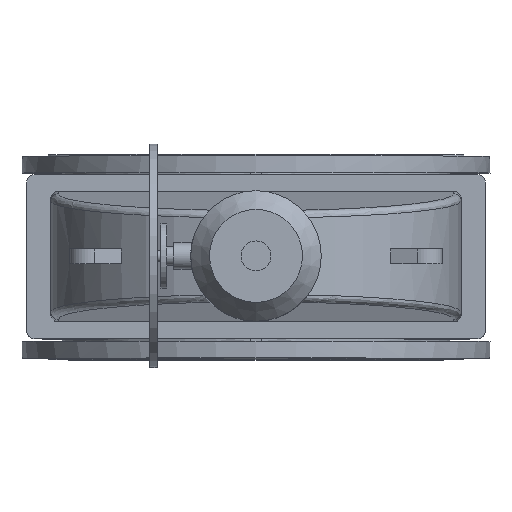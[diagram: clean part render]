
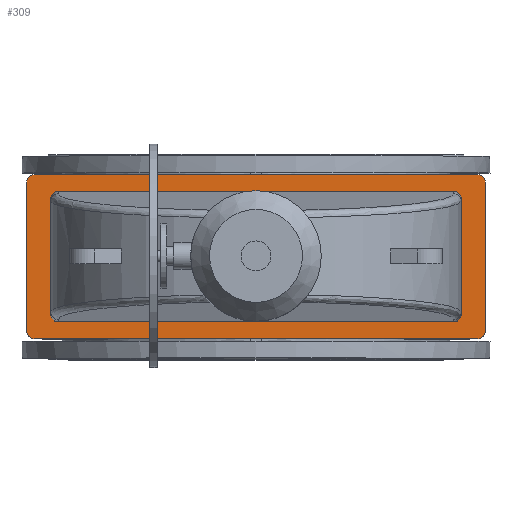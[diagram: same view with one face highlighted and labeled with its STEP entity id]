
A CAD part, top view. The second image highlights one B-rep face of the part: STEP entity #309.
In plain terms, the highlighted planar face has unit normal (0, 0, 1).
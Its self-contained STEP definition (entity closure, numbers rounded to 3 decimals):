
#309=ADVANCED_FACE('',(#3663,#3665),#3667,.T.);
#3663=FACE_BOUND('',#3664,.T.);
#3664=EDGE_LOOP('',(#8280,#8281,#8282,#8283,#8284,#8285,#8286,#8287));
#3665=FACE_BOUND('',#3666,.T.);
#3666=EDGE_LOOP('',(#8288,#8289,#8290,#8291,#8292,#8293,#8294,#8295));
#3667=PLANE('',#3668);
#3668=AXIS2_PLACEMENT_3D('',#3669,#3670,#3671);
#3669=CARTESIAN_POINT('',(0.,0.,1086.));
#3670=DIRECTION('',(0.,-0.,1.));
#3671=DIRECTION('',(0.,1.,0.));
#8280=ORIENTED_EDGE('',*,*,#9634,.F.);
#8281=ORIENTED_EDGE('',*,*,#9635,.T.);
#8282=ORIENTED_EDGE('',*,*,#9636,.F.);
#8283=ORIENTED_EDGE('',*,*,#9637,.T.);
#8284=ORIENTED_EDGE('',*,*,#9638,.F.);
#8285=ORIENTED_EDGE('',*,*,#9639,.T.);
#8286=ORIENTED_EDGE('',*,*,#9640,.F.);
#8287=ORIENTED_EDGE('',*,*,#9641,.T.);
#8288=ORIENTED_EDGE('',*,*,#9632,.F.);
#8289=ORIENTED_EDGE('',*,*,#9631,.F.);
#8290=ORIENTED_EDGE('',*,*,#9633,.F.);
#8291=ORIENTED_EDGE('',*,*,#9606,.F.);
#8292=ORIENTED_EDGE('',*,*,#9642,.F.);
#8293=ORIENTED_EDGE('',*,*,#9643,.F.);
#8294=ORIENTED_EDGE('',*,*,#9644,.F.);
#8295=ORIENTED_EDGE('',*,*,#9599,.F.);
#9599=EDGE_CURVE('',#10322,#10324,#10325,.T.);
#9606=EDGE_CURVE('',#10334,#10332,#10336,.T.);
#9631=EDGE_CURVE('',#10375,#10373,#10377,.T.);
#9632=EDGE_CURVE('',#10373,#10322,#10378,.F.);
#9633=EDGE_CURVE('',#10332,#10375,#10379,.T.);
#9634=EDGE_CURVE('',#10380,#10381,#10382,.F.);
#9635=EDGE_CURVE('',#10380,#10383,#10384,.T.);
#9636=EDGE_CURVE('',#10385,#10383,#10386,.F.);
#9637=EDGE_CURVE('',#10385,#10387,#10388,.T.);
#9638=EDGE_CURVE('',#10389,#10387,#10390,.F.);
#9639=EDGE_CURVE('',#10389,#10391,#10392,.T.);
#9640=EDGE_CURVE('',#10393,#10391,#10394,.F.);
#9641=EDGE_CURVE('',#10393,#10381,#10395,.T.);
#9642=EDGE_CURVE('',#10396,#10334,#10397,.F.);
#9643=EDGE_CURVE('',#10398,#10396,#10399,.T.);
#9644=EDGE_CURVE('',#10324,#10398,#10400,.T.);
#10322=VERTEX_POINT('',#11730);
#10324=VERTEX_POINT('',#11734);
#10325=LINE('',#11735,#11736);
#10332=VERTEX_POINT('',#11755);
#10334=VERTEX_POINT('',#11759);
#10336=LINE('',#11763,#11764);
#10373=VERTEX_POINT('',#11856);
#10375=VERTEX_POINT('',#11860);
#10377=LINE('',#11864,#11865);
#10378=(BOUNDED_CURVE()B_SPLINE_CURVE(3,
(#11867,#11868,#11869,#11870),
.UNSPECIFIED.,.F.,.F.)B_SPLINE_CURVE_WITH_KNOTS((4,4),
(0.,1.),
.UNSPECIFIED.)CURVE()GEOMETRIC_REPRESENTATION_ITEM()RATIONAL_B_SPLINE_CURVE((1.,
0.805,0.805,1.))REPRESENTATION_ITEM(''));
#10379=(BOUNDED_CURVE()B_SPLINE_CURVE(3,
(#11871,#11872,#11873,#11874),
.UNSPECIFIED.,.F.,.F.)B_SPLINE_CURVE_WITH_KNOTS((4,4),
(0.,1.),
.UNSPECIFIED.)CURVE()GEOMETRIC_REPRESENTATION_ITEM()RATIONAL_B_SPLINE_CURVE((1.,
0.805,0.805,1.))REPRESENTATION_ITEM(''));
#10380=VERTEX_POINT('',#11875);
#10381=VERTEX_POINT('',#11876);
#10382=CIRCLE('',#11877,20.);
#10383=VERTEX_POINT('',#11881);
#10384=LINE('',#11882,#11883);
#10385=VERTEX_POINT('',#11885);
#10386=CIRCLE('',#11886,20.);
#10387=VERTEX_POINT('',#11890);
#10388=LINE('',#11891,#11892);
#10389=VERTEX_POINT('',#11894);
#10390=CIRCLE('',#11895,20.);
#10391=VERTEX_POINT('',#11899);
#10392=LINE('',#11900,#11901);
#10393=VERTEX_POINT('',#11903);
#10394=CIRCLE('',#11904,20.);
#10395=LINE('',#11908,#11909);
#10396=VERTEX_POINT('',#11911);
#10397=(BOUNDED_CURVE()B_SPLINE_CURVE(3,
(#11912,#11913,#11914,#11915),
.UNSPECIFIED.,.F.,.F.)B_SPLINE_CURVE_WITH_KNOTS((4,4),
(0.,1.),
.UNSPECIFIED.)CURVE()GEOMETRIC_REPRESENTATION_ITEM()RATIONAL_B_SPLINE_CURVE((1.,
0.805,0.805,1.))REPRESENTATION_ITEM(''));
#10398=VERTEX_POINT('',#11916);
#10399=LINE('',#11917,#11918);
#10400=(BOUNDED_CURVE()B_SPLINE_CURVE(3,
(#11920,#11921,#11922,#11923),
.UNSPECIFIED.,.F.,.F.)B_SPLINE_CURVE_WITH_KNOTS((4,4),
(0.,1.),
.UNSPECIFIED.)CURVE()GEOMETRIC_REPRESENTATION_ITEM()RATIONAL_B_SPLINE_CURVE((1.,
0.805,0.805,1.))REPRESENTATION_ITEM(''));
#11730=CARTESIAN_POINT('',(550.,-154.924,1086.));
#11734=CARTESIAN_POINT('',(550.,154.924,1086.));
#11735=CARTESIAN_POINT('',(550.,-154.924,1086.));
#11736=VECTOR('',#11737,1.);
#11737=DIRECTION('',(0.,1.,0.));
#11755=CARTESIAN_POINT('',(-550.,-154.924,1086.));
#11759=CARTESIAN_POINT('',(-550.,154.924,1086.));
#11763=CARTESIAN_POINT('',(-550.,154.924,1086.));
#11764=VECTOR('',#11765,1.);
#11765=DIRECTION('',(0.,-1.,0.));
#11856=CARTESIAN_POINT('',(530.,-175.,1086.));
#11860=CARTESIAN_POINT('',(-530.,-175.,1086.));
#11864=CARTESIAN_POINT('',(-530.,-175.,1086.));
#11865=VECTOR('',#11866,1.);
#11866=DIRECTION('',(1.,0.,0.));
#11867=CARTESIAN_POINT('',(550.,-154.924,1086.));
#11868=CARTESIAN_POINT('',(550.,-166.684,1086.));
#11869=CARTESIAN_POINT('',(541.716,-175.,1086.));
#11870=CARTESIAN_POINT('',(530.,-175.,1086.));
#11871=CARTESIAN_POINT('',(-550.,-154.924,1086.));
#11872=CARTESIAN_POINT('',(-550.,-166.684,1086.));
#11873=CARTESIAN_POINT('',(-541.716,-175.,1086.));
#11874=CARTESIAN_POINT('',(-530.,-175.,1086.));
#11875=CARTESIAN_POINT('',(-595.,-220.,1086.));
#11876=CARTESIAN_POINT('',(-615.,-200.,1086.));
#11877=AXIS2_PLACEMENT_3D('',#11878,#11879,#11880);
#11878=CARTESIAN_POINT('',(-595.,-200.,1086.));
#11879=DIRECTION('',(0.,-0.,1.));
#11880=DIRECTION('',(-1.,0.,0.));
#11881=CARTESIAN_POINT('',(595.,-220.,1086.));
#11882=CARTESIAN_POINT('',(-595.,-220.,1086.));
#11883=VECTOR('',#11884,1.);
#11884=DIRECTION('',(1.,0.,0.));
#11885=CARTESIAN_POINT('',(615.,-200.,1086.));
#11886=AXIS2_PLACEMENT_3D('',#11887,#11888,#11889);
#11887=CARTESIAN_POINT('',(595.,-200.,1086.));
#11888=DIRECTION('',(0.,-0.,1.));
#11889=DIRECTION('',(0.,-1.,0.));
#11890=CARTESIAN_POINT('',(615.,200.,1086.));
#11891=CARTESIAN_POINT('',(615.,-200.,1086.));
#11892=VECTOR('',#11893,1.);
#11893=DIRECTION('',(0.,1.,0.));
#11894=CARTESIAN_POINT('',(595.,220.,1086.));
#11895=AXIS2_PLACEMENT_3D('',#11896,#11897,#11898);
#11896=CARTESIAN_POINT('',(595.,200.,1086.));
#11897=DIRECTION('',(0.,-0.,1.));
#11898=DIRECTION('',(1.,0.,0.));
#11899=CARTESIAN_POINT('',(-595.,220.,1086.));
#11900=CARTESIAN_POINT('',(595.,220.,1086.));
#11901=VECTOR('',#11902,1.);
#11902=DIRECTION('',(-1.,0.,0.));
#11903=CARTESIAN_POINT('',(-615.,200.,1086.));
#11904=AXIS2_PLACEMENT_3D('',#11905,#11906,#11907);
#11905=CARTESIAN_POINT('',(-595.,200.,1086.));
#11906=DIRECTION('',(0.,-0.,1.));
#11907=DIRECTION('',(0.,1.,0.));
#11908=CARTESIAN_POINT('',(-615.,200.,1086.));
#11909=VECTOR('',#11910,1.);
#11910=DIRECTION('',(0.,-1.,0.));
#11911=CARTESIAN_POINT('',(-530.,175.,1086.));
#11912=CARTESIAN_POINT('',(-550.,154.924,1086.));
#11913=CARTESIAN_POINT('',(-550.,166.684,1086.));
#11914=CARTESIAN_POINT('',(-541.716,175.,1086.));
#11915=CARTESIAN_POINT('',(-530.,175.,1086.));
#11916=CARTESIAN_POINT('',(530.,175.,1086.));
#11917=CARTESIAN_POINT('',(530.,175.,1086.));
#11918=VECTOR('',#11919,1.);
#11919=DIRECTION('',(-1.,0.,0.));
#11920=CARTESIAN_POINT('',(550.,154.924,1086.));
#11921=CARTESIAN_POINT('',(550.,166.684,1086.));
#11922=CARTESIAN_POINT('',(541.716,175.,1086.));
#11923=CARTESIAN_POINT('',(530.,175.,1086.));
